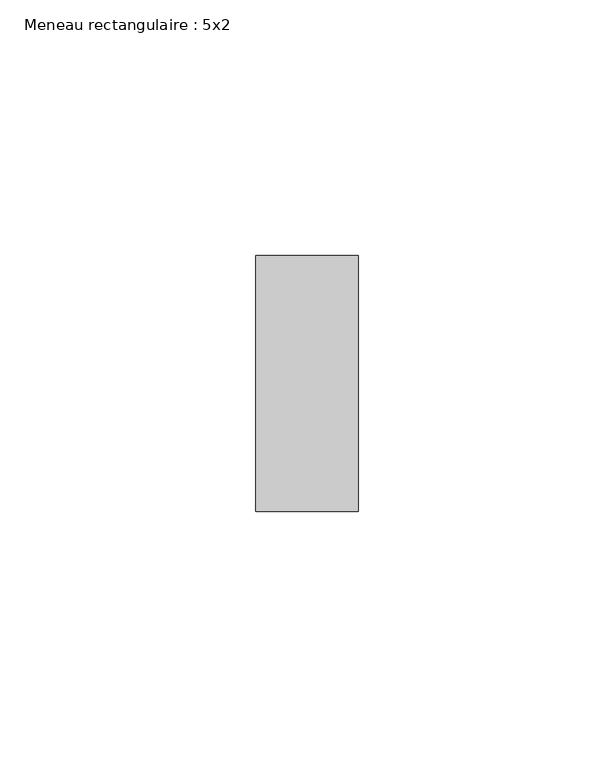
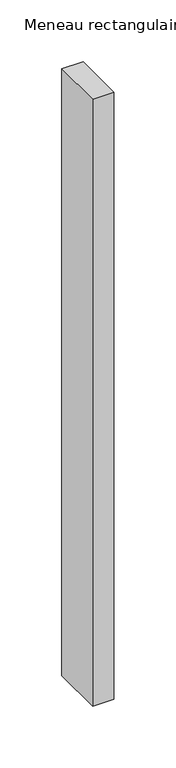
"""IFC4 building model written with IfcOpenShell, lengths in millimetres: member geometry, Meneau rectangulaire : 5x2."""

from ifc_helpers import new_model, si_unit, frame, origin, place, context, project, spatial, polyline, outline, extrude, source, transform, mapped, element, save


def meneau_rectangulaire_5x2_92ccafbc(model_context):
    return source(origin(), model_context, "Body", "SweptSolid", [
        extrude(outline(polyline([(0.0, 25.0), (0.0, -25.0), (-20.0, -25.0), (-20.0, 25.0), (0.0, 25.0)])), frame((0.0, 0.0, -600.0), z_axis=(0.0, 0.0, 1.0), x_axis=(1.0, 0.0, 0.0)), (0.0, 0.0, 1.0), 600.0),
    ])


if __name__ == "__main__":
    model = new_model("IFC4")
    model_context = context("Model", 3, world=origin())
    ifc_project = project(units=[si_unit("LENGTHUNIT", "METRE", prefix="MILLI")], contexts=[model_context])
    site = spatial("IfcSite", under=ifc_project)
    building = spatial("IfcBuilding", under=site)
    placement = place(None, origin())
    meneau_rectangulaire_5x2_shape = meneau_rectangulaire_5x2_92ccafbc(model_context)
    element("IfcMember", 1, ObjectType="Meneau rectangulaire : 5x2", at=placement, inside=building, context=model_context, shape_type="MappedRepresentation", body=[
        mapped(meneau_rectangulaire_5x2_shape, transform((0.0, 0.0, 0.0), x_axis=(1.0, 0.0, 0.0), y_axis=(0.0, 1.0, 0.0), z_axis=(0.0, 0.0, 1.0))),
    ])
    save(model, "model.ifc")
